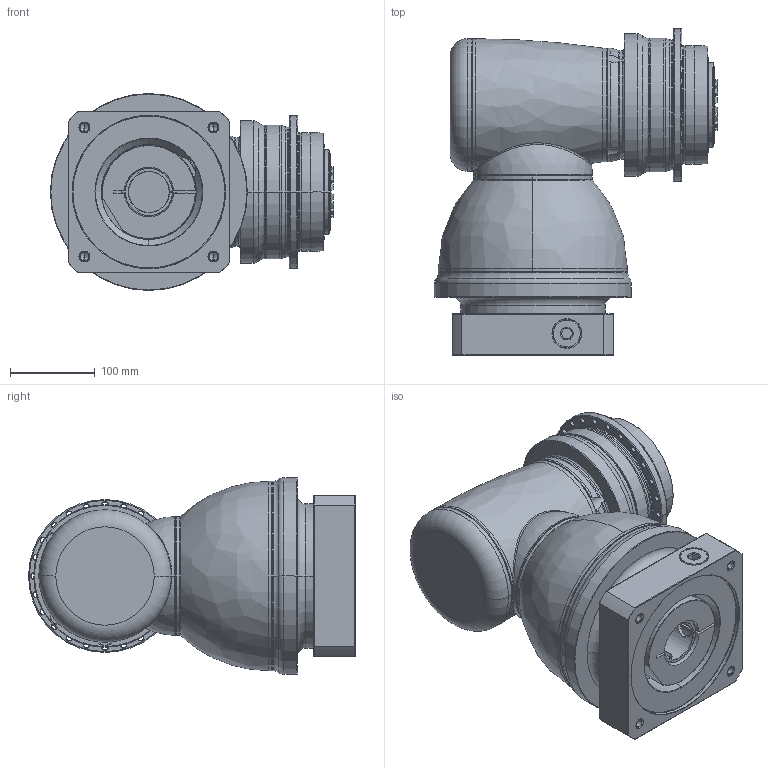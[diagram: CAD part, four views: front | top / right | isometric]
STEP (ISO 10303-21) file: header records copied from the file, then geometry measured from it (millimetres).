
FILE_DESCRIPTION((''),'2;1');
FILE_NAME('APCK140_2ST_SBG_48-P0409B10201_ASM','2018-05-18T',('d01226'),(''),'PRO/ENGINEER BY PARAMETRIC TECHNOLOGY CORPORATION, 2008410','PRO/ENGINEER BY PARAMETRIC TECHNOLOGY CORPORATION, 2008410','');
FILE_SCHEMA(('CONFIG_CONTROL_DESIGN'));
Length unit declared in the file: millimetre
Products named in the file (13): P0278501003; P03595D0103; P1211500001; P1802510011; P1018600002; P1365600001; P1007601001; P1318610401; P0409B10201; P0503B00016; P0912654001; 21711426021; APCK140_2ST_SBG_48-P0409B10201_ASM
Assembly tree (12 placements, depth 2):
  APCK140_2ST_SBG_48-P0409B10201_ASM
    P0278501003
    P03595D0103
    P1211500001
    P1802510011
    P1018600002
    P1365600001
    P1007601001
    P1318610401
    P0409B10201
    P0503B00016
    P0912654001
    21711426021
Bounding box: 333.6 x 385 x 232 mm (x, y, z)
Volume: 11873706.2 mm3; surface area: 896165.8 mm2
Topology: 13 solids, 23 shells, 797 faces, 1888 edges, 1160 vertices
Faces by surface type: cylinder 264, cone 228, plane 145, torus 134, bspline 24, sphere 2
Entity records: 30377 total; most frequent: CARTESIAN_POINT 11436, DIRECTION 4241, ORIENTED_EDGE 3706, EDGE_CURVE 1874, AXIS2_PLACEMENT_3D 1855, VERTEX_POINT 1160, CIRCLE 1047, EDGE_LOOP 918
